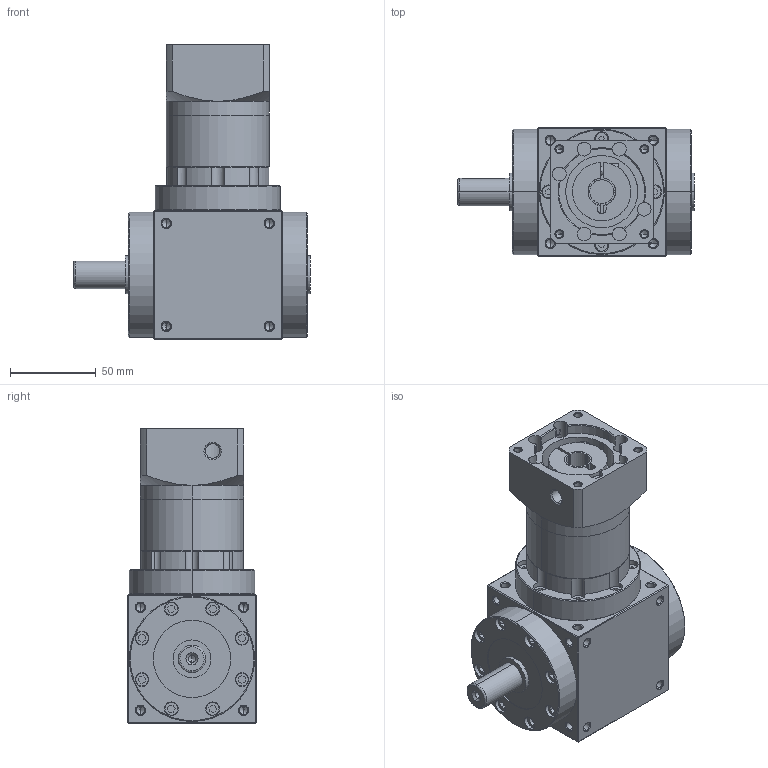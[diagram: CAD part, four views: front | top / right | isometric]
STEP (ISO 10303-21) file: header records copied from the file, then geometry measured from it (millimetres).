
FILE_DESCRIPTION (( 'STEP AP203' ), '1' );
FILE_NAME ('AT075-FL1-L3-14-50-70M5.STEP', '2025-11-28T01:48:23', ( 'Windows User' ), ( 'P R C' ), 'SwSTEP 2.0', 'SolidWorks 2016', '' );
FILE_SCHEMA (( 'CONFIG_CONTROL_DESIGN' ));
Length unit declared in the file: millimetre
Products named in the file (6): AT75FL1-转角箱体-批量-左-单轴输出; AT75FL1-怀堤楊擘-蠶講; AT75FL1-双级齿圈; AT75FL1-输入法兰-B-50-M5-70; 输入胀套-16; AT075-FL1-L3-14-50-70M5
Assembly tree (5 placements, depth 2):
  AT075-FL1-L3-14-50-70M5
    AT75FL1-转角箱体-批量-左-单轴输出
    AT75FL1-怀堤楊擘-蠶講
    AT75FL1-双级齿圈
    AT75FL1-输入法兰-B-50-M5-70
    输入胀套-16
Bounding box: 138 x 75 x 171.5 mm (x, y, z)
Volume: 575293.9 mm3; surface area: 134833.3 mm2
Topology: 5 solids, 21 shells, 1617 faces, 4130 edges, 2588 vertices
Faces by surface type: plane 790, cylinder 386, cone 297, bspline 144
Entity records: 54247 total; most frequent: CARTESIAN_POINT 15845, ORIENTED_EDGE 8024, DIRECTION 7398, EDGE_CURVE 4012, VERTEX_POINT 2588, LINE 2544, VECTOR 2544, AXIS2_PLACEMENT_3D 2427
